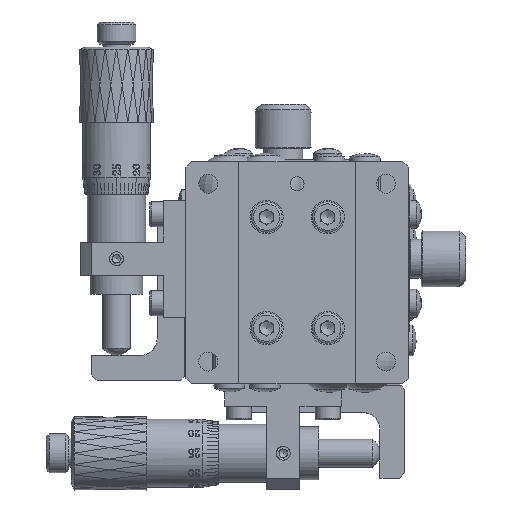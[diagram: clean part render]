
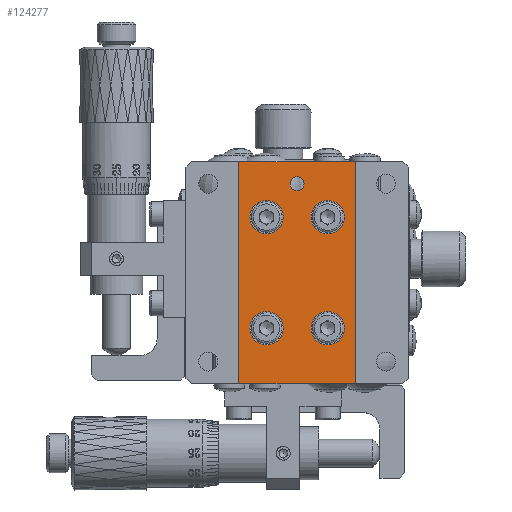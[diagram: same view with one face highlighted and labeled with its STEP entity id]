
A CAD part, front view. The second image highlights one B-rep face of the part: STEP entity #124277.
In plain terms, the highlighted planar face has unit normal (0, -1, 0).
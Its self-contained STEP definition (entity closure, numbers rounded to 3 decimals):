
#2636 = EDGE_LOOP ( 'NONE', ( #128165 ) ) ;
#3640 = VERTEX_POINT ( 'NONE', #25659 ) ;
#5072 = CARTESIAN_POINT ( 'NONE',  ( 14.5, 0.5, 13. ) ) ;
#5265 = CARTESIAN_POINT ( 'NONE',  ( 9.5, 0.5, 0. ) ) ;
#8206 = DIRECTION ( 'NONE',  ( 0., 0., 1. ) ) ;
#8973 = DIRECTION ( 'NONE',  ( 0., -1., 0. ) ) ;
#11112 = AXIS2_PLACEMENT_3D ( 'NONE', #61285, #15804, #84702 ) ;
#13429 = CARTESIAN_POINT ( 'NONE',  ( 30.5, 0.5, 0. ) ) ;
#14268 = ORIENTED_EDGE ( 'NONE', *, *, #35583, .F. ) ;
#15804 = DIRECTION ( 'NONE',  ( 0., -1., 0. ) ) ;
#16947 = DIRECTION ( 'NONE',  ( 0., 1., 0. ) ) ;
#16967 = FACE_BOUND ( 'NONE', #69966, .T. ) ;
#19453 = CARTESIAN_POINT ( 'NONE',  ( 30.5, 0.5, 40. ) ) ;
#19844 = EDGE_CURVE ( 'NONE', #140707, #51176, #47846, .T. ) ;
#20285 = CIRCLE ( 'NONE', #127943, 3. ) ;
#20446 = CARTESIAN_POINT ( 'NONE',  ( 25.5, 0.5, 13. ) ) ;
#22827 = CIRCLE ( 'NONE', #11112, 3. ) ;
#24911 = VERTEX_POINT ( 'NONE', #5072 ) ;
#25659 = CARTESIAN_POINT ( 'NONE',  ( 14.5, 0.5, 33. ) ) ;
#27028 = DIRECTION ( 'NONE',  ( 0., 0., 1. ) ) ;
#30159 = FACE_BOUND ( 'NONE', #127598, .T. ) ;
#35583 = EDGE_CURVE ( 'NONE', #37528, #37528, #118710, .T. ) ;
#36798 = CARTESIAN_POINT ( 'NONE',  ( 9.5, 0.5, 0. ) ) ;
#37528 = VERTEX_POINT ( 'NONE', #92496 ) ;
#37612 = CARTESIAN_POINT ( 'NONE',  ( 30.5, 0.5, 0. ) ) ;
#38544 = EDGE_LOOP ( 'NONE', ( #91298, #43277, #96405, #45722 ) ) ;
#39680 = LINE ( 'NONE', #36798, #66629 ) ;
#40550 = EDGE_CURVE ( 'NONE', #51176, #142391, #87845, .T. ) ;
#43277 = ORIENTED_EDGE ( 'NONE', *, *, #129159, .F. ) ;
#45475 = CARTESIAN_POINT ( 'NONE',  ( 9.5, 0.5, 0. ) ) ;
#45722 = ORIENTED_EDGE ( 'NONE', *, *, #19844, .T. ) ;
#45841 = AXIS2_PLACEMENT_3D ( 'NONE', #45475, #132749, #55814 ) ;
#47048 = AXIS2_PLACEMENT_3D ( 'NONE', #96099, #16947, #53600 ) ;
#47846 = LINE ( 'NONE', #13429, #107915 ) ;
#49448 = CIRCLE ( 'NONE', #47048, 1.25 ) ;
#51176 = VERTEX_POINT ( 'NONE', #19453 ) ;
#51433 = FACE_BOUND ( 'NONE', #66562, .T. ) ;
#53600 = DIRECTION ( 'NONE',  ( 0., 0., 1. ) ) ;
#54186 = CARTESIAN_POINT ( 'NONE',  ( 9.5, 0.5, 40. ) ) ;
#54930 = CARTESIAN_POINT ( 'NONE',  ( 20., 0.5, 37.25 ) ) ;
#55814 = DIRECTION ( 'NONE',  ( 0., 0., 1. ) ) ;
#56388 = DIRECTION ( 'NONE',  ( 0., -1., 0. ) ) ;
#60212 = VECTOR ( 'NONE', #98868, 1000. ) ;
#61285 = CARTESIAN_POINT ( 'NONE',  ( 14.5, 0.5, 30. ) ) ;
#63939 = CARTESIAN_POINT ( 'NONE',  ( 25.5, 0.5, 30. ) ) ;
#64931 = EDGE_CURVE ( 'NONE', #24911, #24911, #20285, .T. ) ;
#65425 = DIRECTION ( 'NONE',  ( 0., 0., 1. ) ) ;
#66562 = EDGE_LOOP ( 'NONE', ( #143638 ) ) ;
#66629 = VECTOR ( 'NONE', #81513, 1000. ) ;
#69966 = EDGE_LOOP ( 'NONE', ( #97706 ) ) ;
#72494 = CARTESIAN_POINT ( 'NONE',  ( 9.5, 0.5, 0. ) ) ;
#81513 = DIRECTION ( 'NONE',  ( -1., 0., 0. ) ) ;
#84702 = DIRECTION ( 'NONE',  ( 0., 0., 1. ) ) ;
#87845 = LINE ( 'NONE', #54186, #60212 ) ;
#88023 = PLANE ( 'NONE',  #45841 ) ;
#89354 = CARTESIAN_POINT ( 'NONE',  ( 25.5, 0.5, 10. ) ) ;
#91298 = ORIENTED_EDGE ( 'NONE', *, *, #40550, .T. ) ;
#92496 = CARTESIAN_POINT ( 'NONE',  ( 25.5, 0.5, 33. ) ) ;
#95574 = VERTEX_POINT ( 'NONE', #5265 ) ;
#96099 = CARTESIAN_POINT ( 'NONE',  ( 20., 0.5, 36. ) ) ;
#96118 = FACE_BOUND ( 'NONE', #2636, .T. ) ;
#96405 = ORIENTED_EDGE ( 'NONE', *, *, #103771, .F. ) ;
#97706 = ORIENTED_EDGE ( 'NONE', *, *, #64931, .F. ) ;
#98153 = VERTEX_POINT ( 'NONE', #20446 ) ;
#98584 = ORIENTED_EDGE ( 'NONE', *, *, #143577, .T. ) ;
#98698 = EDGE_LOOP ( 'NONE', ( #98584 ) ) ;
#98868 = DIRECTION ( 'NONE',  ( -1., 0., 0. ) ) ;
#103771 = EDGE_CURVE ( 'NONE', #140707, #95574, #39680, .T. ) ;
#107146 = FACE_OUTER_BOUND ( 'NONE', #38544, .T. ) ;
#107915 = VECTOR ( 'NONE', #126279, 1000. ) ;
#108619 = DIRECTION ( 'NONE',  ( 0., -1., 0. ) ) ;
#109397 = CARTESIAN_POINT ( 'NONE',  ( 14.5, 0.5, 10. ) ) ;
#110611 = VERTEX_POINT ( 'NONE', #54930 ) ;
#118710 = CIRCLE ( 'NONE', #123338, 3. ) ;
#119274 = CIRCLE ( 'NONE', #123986, 3. ) ;
#123283 = VECTOR ( 'NONE', #27028, 1000. ) ;
#123338 = AXIS2_PLACEMENT_3D ( 'NONE', #63939, #108619, #8206 ) ;
#123986 = AXIS2_PLACEMENT_3D ( 'NONE', #89354, #56388, #134050 ) ;
#124277 = ADVANCED_FACE ( 'NONE', ( #143019, #16967, #30159, #107146, #51433, #96118 ), #88023, .F. ) ;
#126279 = DIRECTION ( 'NONE',  ( 0., 0., 1. ) ) ;
#127448 = LINE ( 'NONE', #72494, #123283 ) ;
#127598 = EDGE_LOOP ( 'NONE', ( #14268 ) ) ;
#127943 = AXIS2_PLACEMENT_3D ( 'NONE', #109397, #8973, #65425 ) ;
#128165 = ORIENTED_EDGE ( 'NONE', *, *, #130494, .F. ) ;
#129159 = EDGE_CURVE ( 'NONE', #95574, #142391, #127448, .T. ) ;
#130494 = EDGE_CURVE ( 'NONE', #3640, #3640, #22827, .T. ) ;
#132749 = DIRECTION ( 'NONE',  ( 0., 1., 0. ) ) ;
#133603 = CARTESIAN_POINT ( 'NONE',  ( 9.5, 0.5, 40. ) ) ;
#134050 = DIRECTION ( 'NONE',  ( 0., 0., 1. ) ) ;
#136042 = EDGE_CURVE ( 'NONE', #98153, #98153, #119274, .T. ) ;
#140707 = VERTEX_POINT ( 'NONE', #37612 ) ;
#142391 = VERTEX_POINT ( 'NONE', #133603 ) ;
#143019 = FACE_BOUND ( 'NONE', #98698, .T. ) ;
#143577 = EDGE_CURVE ( 'NONE', #110611, #110611, #49448, .T. ) ;
#143638 = ORIENTED_EDGE ( 'NONE', *, *, #136042, .F. ) ;
